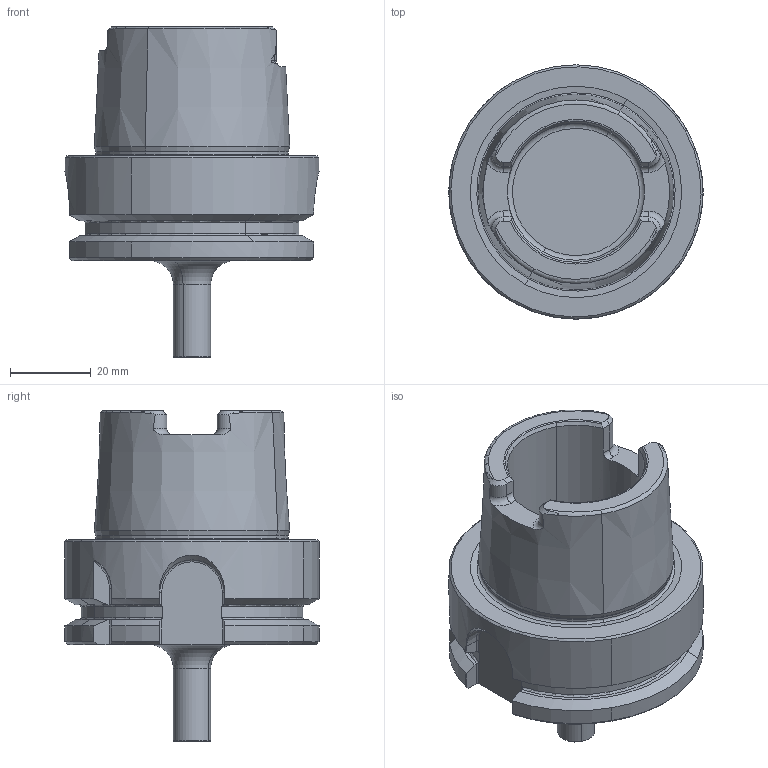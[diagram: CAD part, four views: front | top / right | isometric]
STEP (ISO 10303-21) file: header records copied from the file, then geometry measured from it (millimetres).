
FILE_DESCRIPTION(('CATIA V5 STEP','CAx-IF Rec.Pracs.--- Model Styling and Organization---1.2---2011-12-15'),'2;1');
FILE_NAME('I:\isr\design\admin8\users\wasweem_t\3100313 - L.stp','2014-05-25T13:12:49+00:00',('none'),('none'),'CATIA Version 5 Release 21 SP 5 (IN-10)','CATIA V5 STEP AP214','none');
FILE_SCHEMA(('AUTOMOTIVE_DESIGN { 1 0 10303 214 1 1 1 1 }'));
Length unit declared in the file: millimetre
Products named in the file (1): 620181011_0 Holder-Tool MM S-A-H050-HSK A63-T06
Bounding box: 63 x 63 x 82 mm (x, y, z)
Volume: 92773.7 mm3; surface area: 21420.8 mm2
Topology: 1 solids, 1 shells, 153 faces, 395 edges, 247 vertices
Faces by surface type: plane 45, cylinder 42, cone 35, torus 31
Entity records: 4656 total; most frequent: CARTESIAN_POINT 1354, ORIENTED_EDGE 790, DIRECTION 491, EDGE_CURVE 395, AXIS2_PLACEMENT_3D 266, VERTEX_POINT 247, CIRCLE 174, EDGE_LOOP 156
